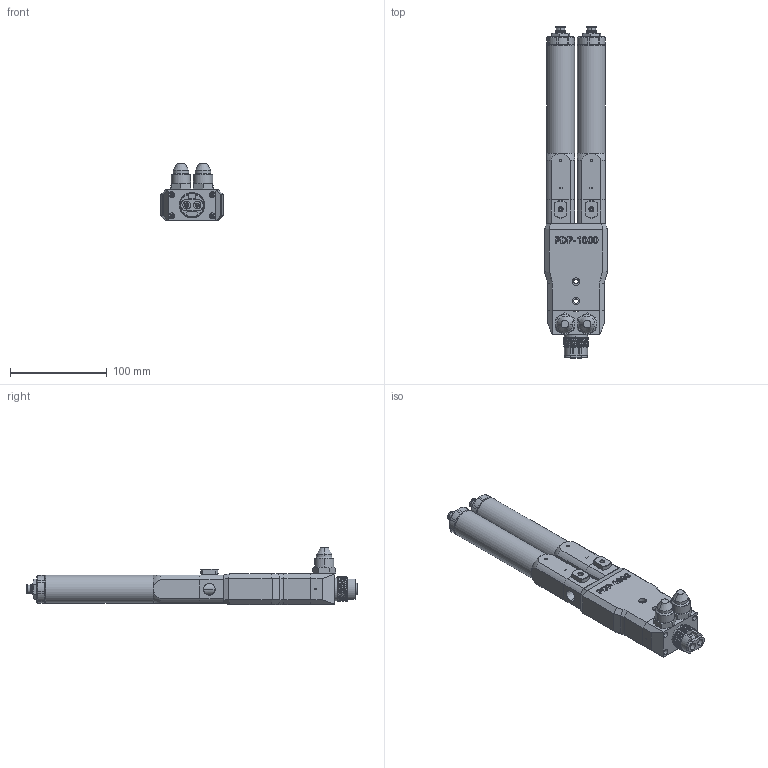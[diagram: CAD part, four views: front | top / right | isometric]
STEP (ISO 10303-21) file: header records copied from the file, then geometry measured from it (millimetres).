
FILE_DESCRIPTION (( 'STEP AP214' ), '1' );
FILE_NAME ('PDP-1000FA.STEP', '2025-01-31T07:37:58', ( '' ), ( '' ), 'SwSTEP 2.0', 'SolidWorks 2024', '' );
FILE_SCHEMA (( 'AUTOMOTIVE_DESIGN' ));
Length unit declared in the file: millimetre
Products named in the file (1): PDP-1000FA
Bounding box: 65 x 344 x 59.3 mm (x, y, z)
Volume: 509043 mm3; surface area: 123092.4 mm2
Topology: 12 solids, 12 shells, 1364 faces, 3397 edges, 2158 vertices
Faces by surface type: plane 530, cylinder 476, cone 269, bspline 69, torus 12, sphere 8
Full cylindrical faces by diameter (mm): 29 x2
Entity records: 60213 total; most frequent: CARTESIAN_POINT 28337, ORIENTED_EDGE 6734, DIRECTION 6445, EDGE_CURVE 3367, AXIS2_PLACEMENT_3D 2443, VERTEX_POINT 2158, VECTOR 1559, LINE 1559
